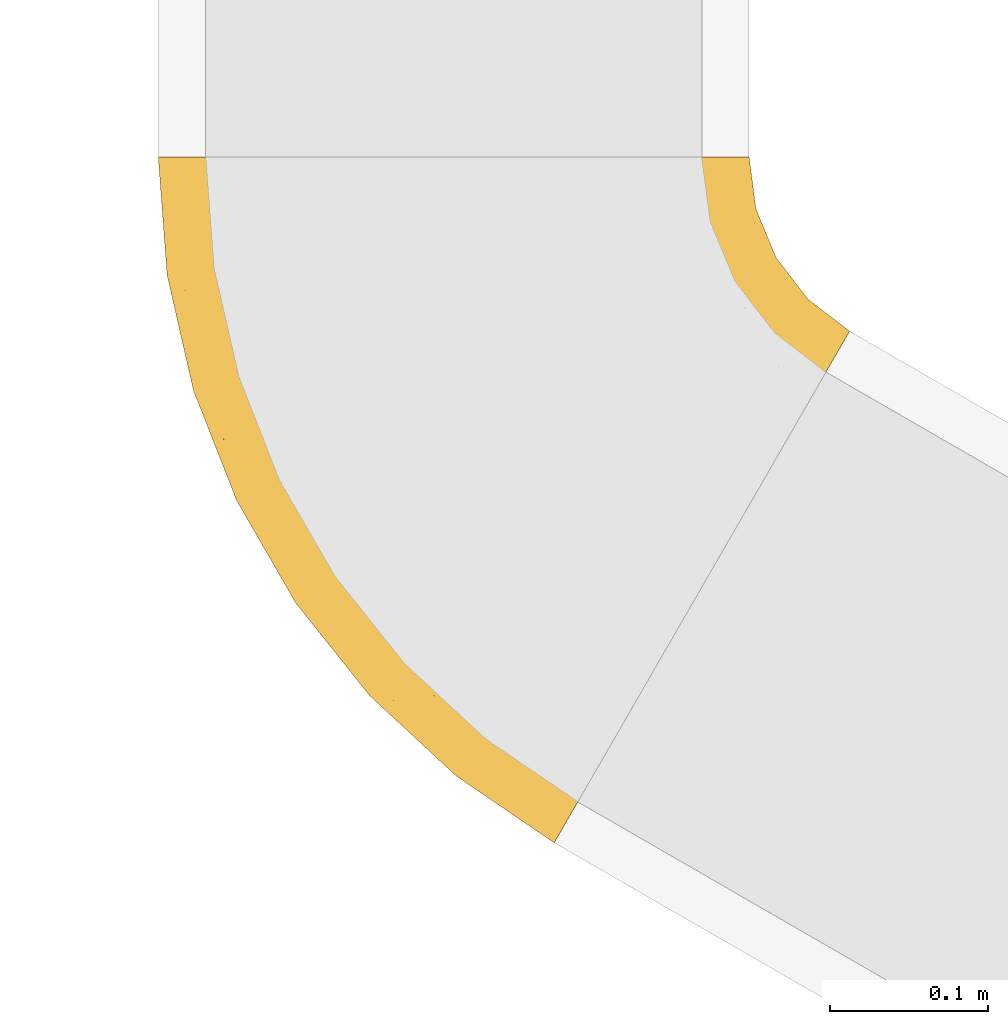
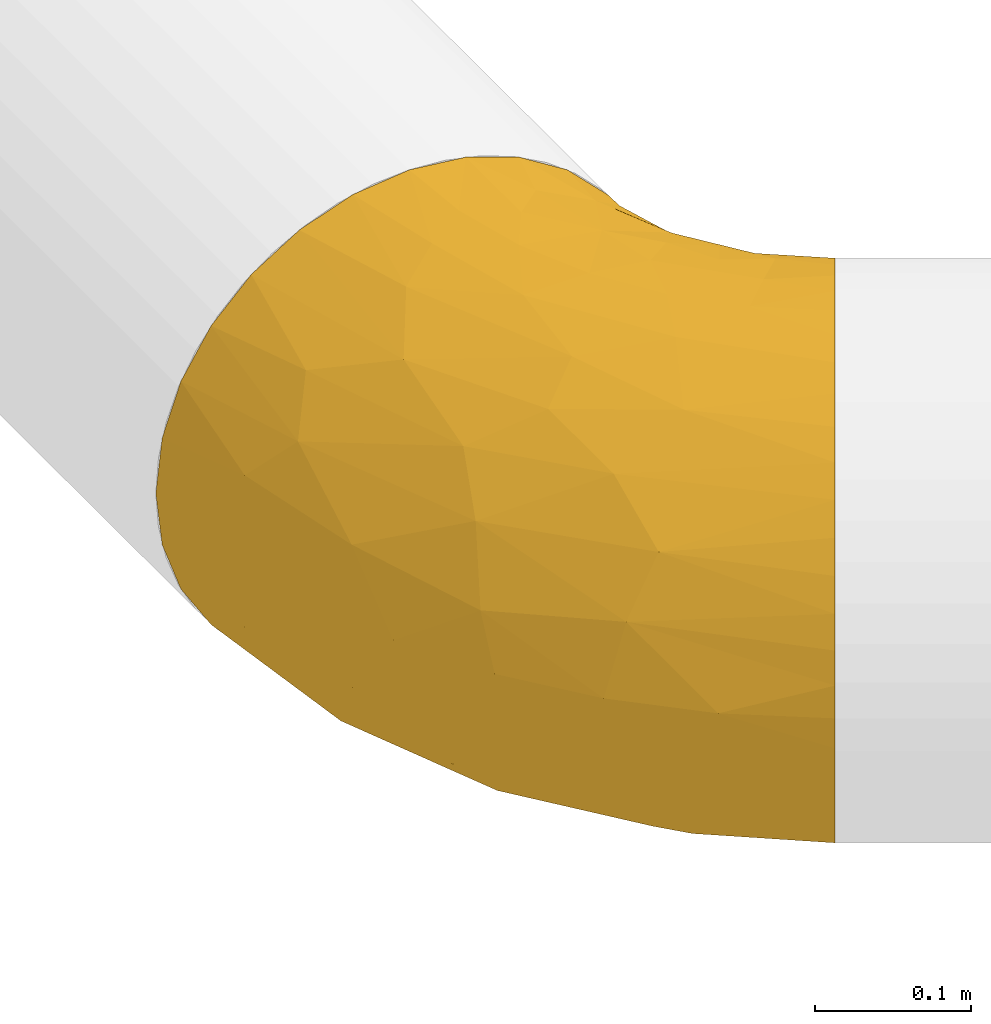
# One storey, part 5 of 21: 1 covering.
"""IFC2X3 building model written with IfcOpenShell, lengths in millimetres."""

from ifc_helpers import new_model, entity, si_unit, converted_unit, derived_unit, direction, frame, origin_with_axes, place, context, subcontext, project, spatial, open_shell, surface_model, source, transform, mapped, element, save


model = new_model("IFC2X3")

# Units and contexts
model_context = context("Model", 3, precision=0.01, world=frame((0.0, 4.29681676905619e-09, 0.0)), true_north=direction((4.01073788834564e-13, 1.0)))
plan_context = context("Plan", 3, precision=0.01, world=frame((0.0, 4.29681676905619e-09, 0.0)), true_north=direction((4.01073788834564e-13, 1.0)))
body_context = subcontext(model_context, "Body", "Model", "MODEL_VIEW")
ifc_project = project(units=[converted_unit("PLANEANGLEUNIT", "DEGREE", entity("IfcPositiveLengthMeasure", 0.0174532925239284), si_unit("PLANEANGLEUNIT", "RADIAN"), dimensions=[0, 0, 0, 0, 0, 0, 0]), si_unit("AREAUNIT", "SQUARE_METRE"), si_unit("LENGTHUNIT", "METRE", prefix="MILLI"), si_unit("MASSUNIT", "GRAM", prefix="KILO"), si_unit("POWERUNIT", "WATT"), si_unit("PRESSUREUNIT", "PASCAL"), si_unit("FORCEUNIT", "NEWTON", prefix="KILO"), si_unit("ELECTRICVOLTAGEUNIT", "VOLT"), si_unit("ELECTRICCURRENTUNIT", "AMPERE"), si_unit("THERMODYNAMICTEMPERATUREUNIT", "DEGREE_CELSIUS"), si_unit("TIMEUNIT", "SECOND"), si_unit("VOLUMEUNIT", "CUBIC_METRE"), derived_unit("LINEARVELOCITYUNIT", [(si_unit("LENGTHUNIT", "METRE"), 1), (si_unit("TIMEUNIT", "SECOND"), -1)]), derived_unit("VOLUMETRICFLOWRATEUNIT", [(si_unit("VOLUMEUNIT", "CUBIC_METRE"), 1), (si_unit("TIMEUNIT", "SECOND"), -1)]), derived_unit("THERMALTRANSMITTANCEUNIT", [(si_unit("POWERUNIT", "WATT"), 1), (si_unit("THERMODYNAMICTEMPERATUREUNIT", "KELVIN"), -1), (si_unit("AREAUNIT", "SQUARE_METRE"), -1)]), derived_unit("SOUNDPRESSUREUNIT", [(si_unit("PRESSUREUNIT", "PASCAL"), 1)])], contexts=[model_context, plan_context])

# Site, building, storey
site_placement = place(None, frame((0.0, -4.29681676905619e-09, 0.0), z_axis=(0.0, 0.0, 1.0), x_axis=(1.0, 0.0, 0.0)))
site = spatial("IfcSite", under=ifc_project, at=site_placement, Name="ENGM", CompositionType="ELEMENT")
building_placement = place(site_placement, frame((0.0, 4.29681676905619e-09, 0.0), z_axis=(0.0, 0.0, 1.0), x_axis=(1.0, 0.0, 0.0)))
building = spatial("IfcBuilding", under=site, at=building_placement, Name="TI", CompositionType="ELEMENT")
storey_placement = place(building_placement, frame((0.0, 0.0, 210900.0), z_axis=(0.0, 0.0, 1.0), x_axis=(1.0, 0.0, 0.0)))
storey = spatial("IfcBuildingStorey", under=building, at=storey_placement, Name="Nivå F", CompositionType="ELEMENT", Elevation=210900.0)

# Covering
shared_shape = source(origin_with_axes(), body_context, "Body", "SurfaceModel", [
    surface_model("IfcShellBasedSurfaceModel", [(-70.05796, 250.44799, 24.47321), (-65.91434, 248.05566, 48.5277), (-59.08712, 244.11397, 71.7519), (9.74022, 204.37648, 162.37804), (28.78957, 193.37833, 173.22595), (48.90217, 181.76632, 181.11), (-23.88876, 223.79219, 132.58067), (-7.91995, 214.57259, 148.75191), (9.74412, 204.37423, -162.38066), (90.93267, 157.5, -187.5), (28.7937, 193.37595, -173.22793), (205.7509, 91.20967, 132.58437), (219.75561, 83.12404, 114.14517), (231.55618, 76.31098, 93.75296), (240.95074, 70.88702, 71.75667), (247.77854, 66.945, 48.53263), (251.92272, 64.55236, 24.47835), (172.12512, 110.62352, -162.37804), (205.7541, 91.20781, -132.58067), (189.78529, 100.42742, -148.75191), (153.07578, 121.62166, -173.22595), (219.75835, 83.12245, -114.14103), (240.95244, 70.88603, -71.7519), (231.55843, 76.30968, -93.74847), (-181.86533, 187.5, 0.0), (-181.86533, 182.79898, -41.72268), (-181.86533, 168.93166, -81.3532), (-181.86533, 182.79898, 41.72268), (-181.86533, 81.3532, -168.93166), (-181.86533, 146.5934, -116.90434), (-181.86533, 116.90434, -146.5934), (-181.86533, 41.72268, -182.79898), (-181.86533, 168.93166, 81.3532), (-181.86533, 116.90434, 146.5934), (-181.86533, 146.5934, 116.90434), (-181.86533, 81.3532, 168.93166), (-181.86533, 41.72268, 182.79898), (-181.86533, -81.3532, 168.93166), (-181.86533, 0.0, 187.5), (-181.86533, -146.5934, -116.90434), (-181.86533, 0.0, -187.5), (-181.86533, -41.72268, -182.79898), (-181.86533, -116.90434, -146.5934), (-181.86533, -81.3532, -168.93166), (-181.86533, -168.93166, -81.3532), (-181.86533, -182.79898, -41.72268), (-181.86533, -187.5, 0.0), (-181.86533, -146.5934, 116.90434), (-181.86533, -116.90434, 146.5934), (-181.86533, -41.72268, 182.79898), (-181.86533, -182.79898, 41.72268), (-181.86533, -168.93166, 81.3532), (112.12709, 145.2634, 185.89598), (59.43866, 112.5219, 187.5), (60.18192, 57.43318, 183.51507), (-97.35497, -170.51043, 59.49457), (-106.9716, -181.8875, 0.0), (-33.75086, -165.17533, 0.0), (-86.31865, -57.399, 174.15921), (-42.69094, -84.52447, 153.22155), (36.16124, -137.73686, 0.0), (-2.78, -145.98652, 54.01754), (-107.37447, -26.15289, 184.3563), (-74.12899, 18.99682, 187.5), (-127.16616, 4.78556, 187.5), (101.203, -100.18498, 0.0), (87.9691, -103.06479, 42.65811), (-68.62762, -147.70999, 95.48659), (159.92147, -53.35857, 0.0), (-24.36533, 42.202, 187.5), (-29.18279, -3.77199, 183.51507), (159.85492, -12.70472, 100.23521), (33.76438, -4.15369, 173.87509), (109.86293, 34.67616, 164.71571), (-93.64582, -127.40738, 128.9507), (189.78169, 100.42949, 148.75509), (112.62265, -18.78613, 134.99521), (53.74969, -33.30113, 154.99686), (132.95889, 133.23615, 181.11133), (64.51363, -93.10536, 94.90033), (30.62366, -82.69679, 129.1758), (162.94679, -38.48045, 56.43453), (211.00498, 1.69637, 0.0), (253.31243, 63.75, 0.0), (172.12122, 110.62577, 162.38066), (20.61276, 73.696, 187.5), (90.93267, 157.5, 187.5), (153.07163, 121.62405, 173.22793), (-108.2874, 40.40341, 184.96685), (-21.16372, 85.49431, 184.23748), (-134.75942, 66.35002, 176.97813), (-65.14494, 206.88603, 104.16776), (-47.98106, 178.26052, 140.9681), (-124.45134, 188.4264, 64.61805), (-153.74596, 179.87289, 61.92732), (-134.0277, 166.26449, 99.756), (-71.72876, 78.81135, 179.43654), (-81.86071, 232.43701, 28.52549), (-128.19026, 106.55585, 158.76079), (-38.77936, 147.11278, 161.99662), (-2.7119, 167.48921, 168.16205), (-7.79937, 129.02545, 177.54812), (33.06864, 138.02837, 183.89637), (-161.61944, 187.00557, 27.88925), (-46.45792, 111.80714, 173.60986), (-160.20804, 160.26909, 99.75601), (-147.91089, 135.77045, 132.58252), (-106.67196, 206.46133, 41.01294), (-91.70922, 224.84389, 0.0), (-118.11534, 204.58175, 0.0), (69.73379, 169.73919, 185.89528), (-110.32896, 148.17261, 131.67703), (-80.80818, 178.8129, 118.36838), (-107.75283, 175.13448, 102.94433), (-37.89302, 231.87754, 114.14103), (-76.65049, 132.30286, 155.89877), (-49.6931, 238.69032, 93.74847), (-95.95386, 195.92049, 82.92772), (-140.18646, 191.05035, 34.86179), (-81.02679, 221.59681, 60.26883), (-71.4471, 251.25, 0.0), (-148.8659, 191.84445, 0.0), (-164.49746, 178.07521, -61.92732), (-161.51856, 186.99117, -28.08818), (-142.65645, 182.66443, -61.92732), (-144.48439, 136.45364, -132.58252), (-37.89027, 231.87596, -114.14517), (-68.364, 221.83975, -82.93237), (-49.69085, 238.68903, -93.75296), (-106.14928, 146.62622, -134.74407), (-126.51279, 161.94369, -109.44677), (-102.46498, 177.12765, -104.17208), (-151.61159, 101.89278, -158.76079), (-26.71643, 172.24479, -155.90166), (-23.88556, 223.79034, -132.58437), (-7.91636, 214.57051, -148.75509), (-115.23555, 110.32843, -158.76079), (-114.78092, 198.1302, -51.65203), (-94.86033, 218.56527, -29.7968), (-80.52615, 231.82228, -36.58382), (20.61276, 73.696, -187.5), (20.71797, 112.41669, -185.32074), (59.43866, 112.5219, -187.5), (-127.16616, 4.78556, -187.5), (-154.21006, 161.22784, -99.75601), (-113.52667, 59.95664, -180.44213), (-60.1113, 190.64946, -123.62946), (-63.82138, 157.41655, -145.62631), (-74.12899, 18.99682, -187.5), (-81.55838, 127.68142, -156.99318), (-73.22652, 90.49369, -175.65374), (-44.75773, 127.75938, -168.16434), (-24.60556, 90.40978, -183.00135), (-24.36533, 42.202, -187.5), (-87.58529, 214.97854, -60.27369), (-65.9132, 248.05501, -48.53263), (-59.08541, 244.11297, -71.75667), (-82.5029, 198.72626, -94.31197), (-70.05738, 250.44765, -24.47835), (5.58827, 142.52068, -177.54975), (48.90645, 181.76385, -181.11133), (-61.83398, 57.59194, -184.92265), (69.73825, 169.73661, -185.89598), (-141.57774, 191.36828, -30.69987), (-101.44668, -59.71954, -174.63662), (-85.71326, -22.05482, -184.1084), (-17.44822, -24.07446, -177.01047), (139.47282, -14.60752, -118.47712), (40.99908, -96.53247, -108.37941), (33.51983, -59.23025, -146.68779), (127.24475, -76.26729, -37.86292), (186.47443, -13.42455, -57.41033), (115.02838, -70.03267, -76.45156), (61.95183, 48.16759, -181.65521), (96.50865, 19.50614, -163.95538), (-97.85661, -170.59249, -59.50926), (-91.63353, -95.31122, -155.2642), (-3.50153, -144.7562, -58.49395), (-55.44369, -145.63435, -93.24949), (169.58344, -11.04715, -90.16297), (140.06819, 23.68222, -144.75413), (-60.24341, -120.81121, -127.51474), (112.13155, 145.26082, -185.89528), (132.96316, 133.23368, -181.11), (247.77968, 66.94434, -48.5277), (251.9233, 64.55201, -24.47321)], [open_shell([[[0, 1, 2]], [[3, 4, 5]], [[6, 7, 3]], [[6, 3, 5]], [[8, 9, 10]], [[11, 12, 13]], [[11, 13, 14]], [[14, 15, 16]], [[17, 18, 19]], [[18, 17, 20]], [[21, 22, 23]], [[24, 25, 26]], [[27, 24, 26]], [[26, 28, 27]], [[29, 30, 28]], [[26, 29, 28]], [[27, 28, 31]], [[32, 33, 34]], [[33, 32, 27]], [[35, 33, 36]], [[36, 33, 27]], [[31, 36, 27]], [[36, 37, 38]], [[36, 31, 39]], [[39, 40, 41]], [[42, 41, 43]], [[39, 37, 36]], [[44, 45, 39]], [[39, 41, 42]], [[46, 39, 45]], [[37, 47, 48]], [[49, 38, 37]], [[50, 47, 39]], [[51, 47, 50]], [[47, 37, 39]], [[50, 39, 46]], [[31, 40, 39]], [[52, 53, 54]], [[55, 56, 57]], [[58, 37, 59]], [[57, 60, 61]], [[56, 50, 46]], [[62, 63, 64]], [[60, 65, 66]], [[51, 67, 47]], [[65, 68, 66]], [[69, 63, 70]], [[71, 14, 13]], [[57, 61, 55]], [[72, 73, 54]], [[47, 74, 48]], [[75, 73, 76]], [[37, 58, 49]], [[73, 77, 76]], [[38, 49, 62]], [[54, 73, 78]], [[47, 67, 74]], [[70, 58, 72]], [[70, 54, 69]], [[79, 61, 66]], [[62, 70, 63]], [[50, 55, 51]], [[72, 54, 70]], [[80, 76, 77]], [[48, 59, 37]], [[66, 68, 81]], [[77, 73, 72]], [[13, 12, 71]], [[71, 11, 76]], [[72, 59, 77]], [[11, 71, 12]], [[16, 81, 82]], [[11, 75, 76]], [[79, 71, 76]], [[15, 81, 16]], [[77, 59, 80]], [[81, 15, 14]], [[74, 80, 59]], [[82, 83, 16]], [[73, 75, 84]], [[76, 80, 79]], [[72, 58, 59]], [[69, 54, 85]], [[51, 55, 67]], [[86, 53, 52]], [[80, 74, 67]], [[53, 85, 54]], [[56, 55, 50]], [[73, 87, 78]], [[80, 67, 79]], [[54, 78, 52]], [[59, 48, 74]], [[81, 71, 79]], [[84, 87, 73]], [[62, 58, 70]], [[67, 55, 61]], [[68, 82, 81]], [[71, 81, 14]], [[61, 79, 67]], [[79, 66, 81]], [[60, 66, 61]], [[38, 62, 64]], [[58, 62, 49]], [[64, 63, 88]], [[64, 36, 38]], [[89, 69, 85]], [[35, 36, 90]], [[6, 91, 92]], [[93, 94, 95]], [[69, 96, 63]], [[97, 1, 0]], [[35, 90, 98]], [[90, 88, 96]], [[99, 100, 92]], [[101, 102, 100]], [[24, 27, 103]], [[104, 89, 101]], [[102, 101, 89]], [[105, 94, 32]], [[33, 106, 34]], [[107, 108, 109]], [[53, 110, 102]], [[27, 32, 94]], [[34, 105, 32]], [[111, 112, 113]], [[91, 6, 114]], [[96, 115, 98]], [[102, 85, 53]], [[88, 36, 64]], [[92, 7, 6]], [[100, 7, 92]], [[85, 102, 89]], [[91, 114, 116]], [[112, 91, 117]], [[102, 5, 4]], [[100, 99, 101]], [[100, 102, 4]], [[99, 104, 101]], [[53, 86, 110]], [[94, 118, 103]], [[7, 100, 3]], [[2, 119, 116]], [[35, 98, 33]], [[118, 107, 109]], [[119, 2, 1]], [[94, 93, 118]], [[91, 116, 119]], [[119, 1, 97]], [[100, 4, 3]], [[108, 97, 120]], [[113, 93, 95]], [[92, 91, 112]], [[119, 117, 91]], [[33, 98, 106]], [[106, 111, 95]], [[92, 115, 99]], [[110, 5, 102]], [[104, 115, 96]], [[96, 69, 89]], [[96, 98, 90]], [[111, 98, 115]], [[105, 106, 95]], [[96, 88, 63]], [[36, 88, 90]], [[107, 93, 117]], [[118, 109, 121]], [[117, 119, 107]], [[107, 119, 97]], [[115, 104, 99]], [[89, 104, 96]], [[98, 111, 106]], [[115, 92, 112]], [[113, 112, 117]], [[115, 112, 111]], [[93, 113, 117]], [[111, 113, 95]], [[106, 105, 34]], [[94, 105, 95]], [[118, 93, 107]], [[103, 118, 121]], [[24, 103, 121]], [[94, 103, 27]], [[120, 97, 0]], [[107, 97, 108]], [[122, 123, 124]], [[123, 24, 121]], [[30, 29, 125]], [[126, 127, 128]], [[25, 122, 26]], [[129, 130, 131]], [[30, 132, 28]], [[133, 134, 135]], [[136, 132, 125]], [[137, 109, 138]], [[120, 139, 108]], [[140, 141, 142]], [[143, 40, 31]], [[29, 26, 144]], [[31, 145, 143]], [[132, 145, 28]], [[146, 133, 147]], [[148, 143, 145]], [[136, 149, 150]], [[147, 133, 151]], [[136, 125, 129]], [[28, 145, 31]], [[152, 140, 153]], [[152, 150, 151]], [[139, 127, 154]], [[122, 144, 26]], [[146, 126, 134]], [[127, 126, 146]], [[108, 139, 138]], [[8, 133, 135]], [[134, 133, 146]], [[139, 155, 156]], [[127, 157, 154]], [[156, 127, 139]], [[131, 124, 137]], [[120, 158, 139]], [[159, 152, 151]], [[138, 139, 154]], [[8, 10, 159]], [[29, 144, 125]], [[159, 151, 133]], [[160, 159, 10]], [[150, 161, 145]], [[133, 8, 159]], [[141, 162, 142]], [[127, 156, 128]], [[9, 142, 162]], [[153, 148, 161]], [[141, 160, 162]], [[141, 152, 159]], [[163, 109, 137]], [[157, 127, 146]], [[146, 131, 157]], [[139, 158, 155]], [[137, 157, 131]], [[144, 130, 125]], [[130, 124, 131]], [[152, 141, 140]], [[141, 159, 160]], [[152, 153, 161]], [[136, 150, 145]], [[145, 161, 148]], [[152, 161, 150]], [[147, 131, 146]], [[129, 147, 149]], [[149, 147, 151]], [[131, 147, 129]], [[137, 138, 154]], [[109, 108, 138]], [[137, 154, 157]], [[124, 123, 163]], [[150, 149, 151]], [[129, 149, 136]], [[125, 132, 30]], [[145, 132, 136]], [[125, 130, 129]], [[124, 130, 144]], [[123, 122, 25]], [[144, 122, 124]], [[24, 123, 25]], [[123, 121, 163]], [[109, 163, 121]], [[137, 124, 163]], [[164, 165, 166]], [[167, 168, 169]], [[164, 43, 41]], [[170, 65, 60]], [[40, 143, 165]], [[68, 170, 171]], [[165, 148, 153]], [[168, 167, 172]], [[140, 142, 173]], [[173, 153, 140]], [[169, 166, 174]], [[166, 165, 153]], [[57, 56, 175]], [[176, 42, 43]], [[45, 44, 175]], [[176, 164, 166]], [[56, 46, 45]], [[148, 165, 143]], [[168, 177, 178]], [[41, 165, 164]], [[179, 21, 23]], [[177, 172, 170]], [[169, 174, 180]], [[175, 56, 45]], [[169, 176, 166]], [[57, 177, 60]], [[42, 181, 39]], [[174, 166, 173]], [[20, 174, 173]], [[41, 40, 165]], [[142, 9, 182]], [[170, 60, 177]], [[173, 182, 183]], [[178, 175, 44]], [[178, 181, 168]], [[174, 20, 17]], [[174, 17, 180]], [[44, 39, 178]], [[181, 42, 176]], [[176, 43, 164]], [[169, 181, 176]], [[180, 17, 19]], [[175, 177, 57]], [[179, 171, 172]], [[184, 171, 22]], [[168, 172, 177]], [[167, 18, 21]], [[82, 68, 171]], [[171, 170, 172]], [[171, 179, 22]], [[82, 171, 185]], [[171, 184, 185]], [[83, 82, 185]], [[173, 183, 20]], [[173, 166, 153]], [[172, 167, 179]], [[170, 68, 65]], [[167, 180, 18]], [[178, 177, 175]], [[173, 142, 182]], [[181, 169, 168]], [[39, 181, 178]], [[21, 179, 167]], [[22, 179, 23]], [[18, 180, 19]], [[169, 180, 167]], [[158, 120, 0]], [[158, 0, 155]], [[86, 52, 78]], [[21, 18, 22]], [[183, 18, 20]], [[110, 2, 116]], [[0, 2, 110]], [[114, 6, 116]], [[6, 5, 110]], [[110, 116, 6]], [[155, 0, 110]], [[156, 135, 134]], [[155, 135, 156]], [[156, 126, 128]], [[126, 156, 134]], [[8, 135, 155]], [[10, 162, 160]], [[162, 10, 9]], [[110, 8, 155]], [[9, 8, 110]], [[110, 86, 9]], [[78, 18, 86]], [[11, 87, 84]], [[11, 78, 87]], [[75, 11, 84]], [[78, 14, 18]], [[14, 78, 11]], [[83, 14, 16]], [[18, 183, 182]], [[9, 18, 182]], [[184, 83, 185]], [[22, 18, 184]], [[18, 14, 184]], [[83, 184, 14]], [[18, 9, 86]]])]),
])
covering_placement = place(storey_placement, frame((605819.77046, 695681.72271, 2446.77402000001), z_axis=(0.0, 0.0, 1.0), x_axis=(0.0, -1.0, 0.0)))
element("IfcCovering", 1, at=covering_placement, inside=storey, Name="B-EI60", PredefinedType="INSULATION", context=body_context, shape_type="MappedRepresentation", body=[
    mapped(shared_shape, transform((0.0, 0.0, 0.0), scale=1.0)),
])

save(model, "model.ifc")
